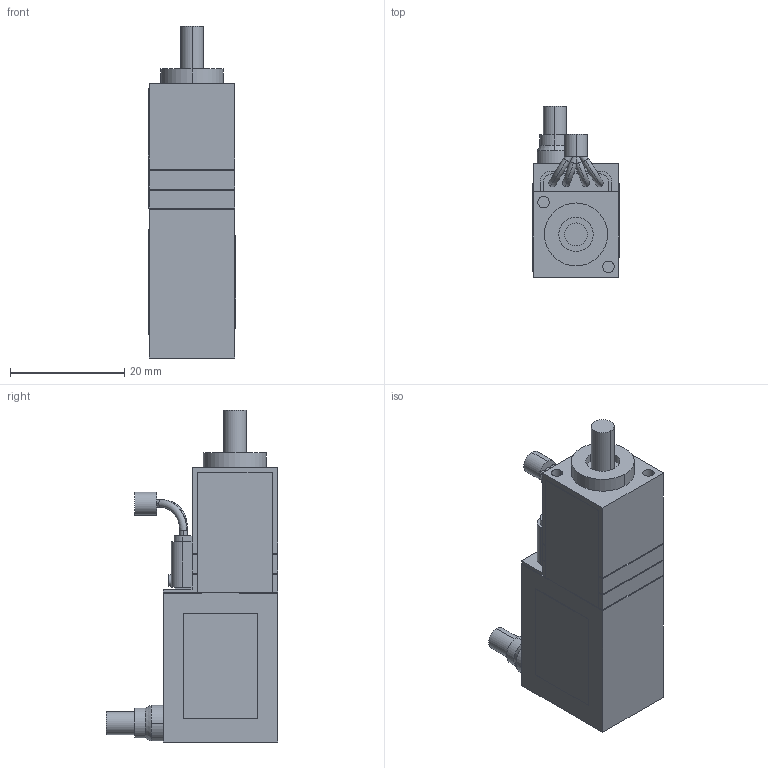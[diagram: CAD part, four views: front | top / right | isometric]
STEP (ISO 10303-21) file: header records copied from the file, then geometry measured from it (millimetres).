
FILE_DESCRIPTION (( 'STEP AP203' ), '1' );
FILE_NAME ('sgmmv_b3e_a21.STEP', '2011-11-16T06:51:34', ( '匠エンジニアリング山之内' ), ( 'TAKUMI-Engniaring' ), 'SwSTEP 2.0', 'SolidWorks 2006303', '' );
FILE_SCHEMA (( 'CONFIG_CONTROL_DESIGN' ));
Length unit declared in the file: millimetre
Products named in the file (1): sgmmv_b3e_a21
Bounding box: 15.2 x 30 x 58 mm (x, y, z)
Volume: 13827.1 mm3; surface area: 4584.2 mm2
Topology: 1 solids, 1 shells, 164 faces, 450 edges, 294 vertices
Faces by surface type: plane 104, cylinder 50, torus 8, cone 2
Entity records: 5308 total; most frequent: CARTESIAN_POINT 984, ORIENTED_EDGE 900, DIRECTION 879, EDGE_CURVE 450, VECTOR 313, LINE 313, VERTEX_POINT 294, AXIS2_PLACEMENT_3D 283
